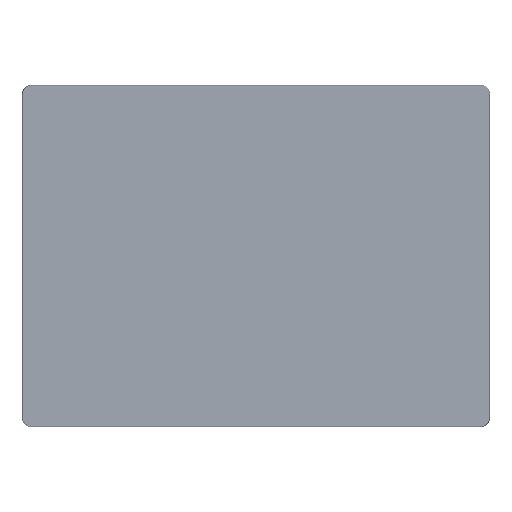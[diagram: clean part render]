
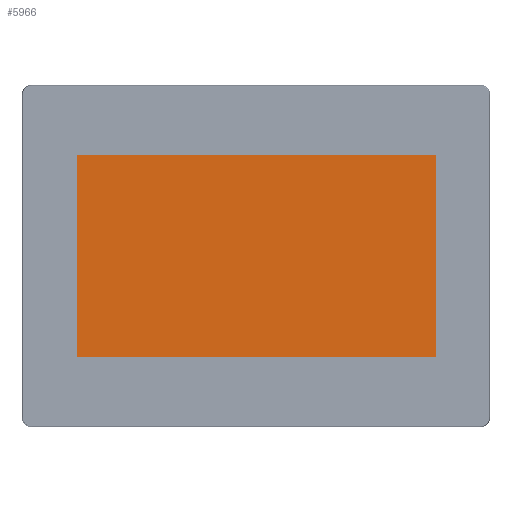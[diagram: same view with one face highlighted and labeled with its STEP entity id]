
A CAD part, top view. The second image highlights one B-rep face of the part: STEP entity #5966.
In plain terms, the highlighted planar face has unit normal (0, 0, 1).
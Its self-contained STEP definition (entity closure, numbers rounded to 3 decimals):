
#2752 = CARTESIAN_POINT ( 'NONE',  ( 96., 43.19, 0.18 ) ) ;
#5966 = ADVANCED_FACE ( 'NONE', ( #226967 ), #117563, .F. ) ;
#15786 = DIRECTION ( 'NONE',  ( 0., -1., 0. ) ) ;
#17939 = DIRECTION ( 'NONE',  ( -1., 0., 0. ) ) ;
#43639 = DIRECTION ( 'NONE',  ( 1., 0., 0. ) ) ;
#46784 = LINE ( 'NONE', #2752, #110643 ) ;
#47895 = VERTEX_POINT ( 'NONE', #50801 ) ;
#50801 = CARTESIAN_POINT ( 'NONE',  ( 76.65, 43.19, 0.18 ) ) ;
#63324 = DIRECTION ( 'NONE',  ( 0., 0., -1. ) ) ;
#63549 = VECTOR ( 'NONE', #102596, 1000. ) ;
#63761 = ORIENTED_EDGE ( 'NONE', *, *, #261389, .T. ) ;
#82782 = CARTESIAN_POINT ( 'NONE',  ( 76.65, -43.43, 0.18 ) ) ;
#89503 = DIRECTION ( 'NONE',  ( -1., 0., 0. ) ) ;
#102596 = DIRECTION ( 'NONE',  ( 0., 1., 0. ) ) ;
#108596 = VERTEX_POINT ( 'NONE', #239417 ) ;
#110643 = VECTOR ( 'NONE', #89503, 1000. ) ;
#113955 = ORIENTED_EDGE ( 'NONE', *, *, #225403, .T. ) ;
#117563 = PLANE ( 'NONE',  #157191 ) ;
#123978 = CARTESIAN_POINT ( 'NONE',  ( 76.65, 69.05, 0.18 ) ) ;
#125168 = CARTESIAN_POINT ( 'NONE',  ( -77., -43.43, 0.18 ) ) ;
#157191 = AXIS2_PLACEMENT_3D ( 'NONE', #187206, #63324, #17939 ) ;
#178682 = CARTESIAN_POINT ( 'NONE',  ( 96., -43.43, 0.18 ) ) ;
#183648 = VERTEX_POINT ( 'NONE', #82782 ) ;
#187206 = CARTESIAN_POINT ( 'NONE',  ( 96., 69.05, 0.18 ) ) ;
#213401 = LINE ( 'NONE', #278644, #233123 ) ;
#214804 = LINE ( 'NONE', #123978, #63549 ) ;
#221288 = LINE ( 'NONE', #178682, #265916 ) ;
#225403 = EDGE_CURVE ( 'NONE', #183648, #47895, #214804, .T. ) ;
#226967 = FACE_OUTER_BOUND ( 'NONE', #252340, .T. ) ;
#230017 = ORIENTED_EDGE ( 'NONE', *, *, #275314, .T. ) ;
#233123 = VECTOR ( 'NONE', #15786, 1000. ) ;
#234397 = VERTEX_POINT ( 'NONE', #125168 ) ;
#239417 = CARTESIAN_POINT ( 'NONE',  ( -77., 43.19, 0.18 ) ) ;
#252340 = EDGE_LOOP ( 'NONE', ( #254811, #113955, #230017, #63761 ) ) ;
#254811 = ORIENTED_EDGE ( 'NONE', *, *, #263345, .T. ) ;
#261389 = EDGE_CURVE ( 'NONE', #108596, #234397, #213401, .T. ) ;
#263345 = EDGE_CURVE ( 'NONE', #234397, #183648, #221288, .T. ) ;
#265916 = VECTOR ( 'NONE', #43639, 1000. ) ;
#275314 = EDGE_CURVE ( 'NONE', #47895, #108596, #46784, .T. ) ;
#278644 = CARTESIAN_POINT ( 'NONE',  ( -77., 69.05, 0.18 ) ) ;
